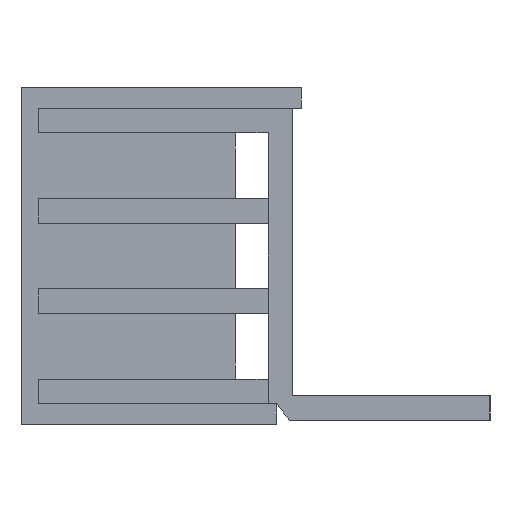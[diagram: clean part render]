
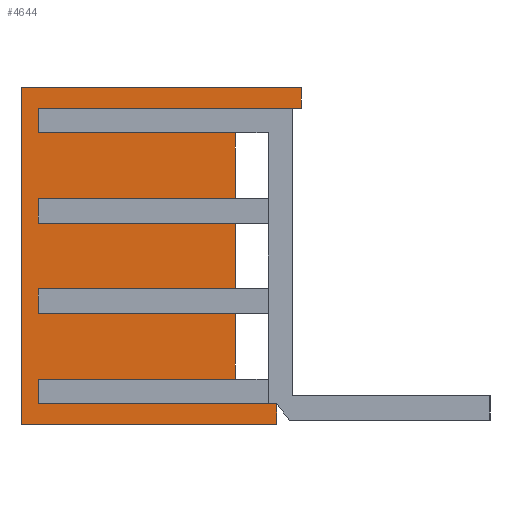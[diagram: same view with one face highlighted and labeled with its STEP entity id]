
A CAD part, left-side view. The second image highlights one B-rep face of the part: STEP entity #4644.
In plain terms, the highlighted planar face has unit normal (-1, 0, 0).
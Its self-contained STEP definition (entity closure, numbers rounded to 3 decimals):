
#1=DIRECTION('',(0.,-1.,0.));
#2=VECTOR('',#1,15.5);
#3=CARTESIAN_POINT('',(0.,15.5,0.));
#4=LINE('',#3,#2);
#5=DIRECTION('',(0.,0.,-1.));
#6=VECTOR('',#5,20.5);
#7=CARTESIAN_POINT('',(0.,15.5,20.5));
#8=LINE('',#7,#6);
#9=DIRECTION('',(0.,1.,0.));
#10=VECTOR('',#9,17.);
#11=CARTESIAN_POINT('',(0.,-1.5,20.5));
#12=LINE('',#11,#10);
#13=DIRECTION('',(0.,0.,1.));
#14=VECTOR('',#13,1.25);
#15=CARTESIAN_POINT('',(0.,-1.5,19.25));
#16=LINE('',#15,#14);
#17=DIRECTION('',(0.,-1.,0.));
#18=VECTOR('',#17,16.);
#19=CARTESIAN_POINT('',(0.,14.5,19.25));
#20=LINE('',#19,#18);
#21=DIRECTION('',(0.,0.,1.));
#22=VECTOR('',#21,1.5);
#23=CARTESIAN_POINT('',(0.,14.5,17.75));
#24=LINE('',#23,#22);
#25=DIRECTION('',(0.,1.,0.));
#26=VECTOR('',#25,12.);
#27=CARTESIAN_POINT('',(0.,2.5,17.75));
#28=LINE('',#27,#26);
#29=DIRECTION('',(0.,0.,1.));
#30=VECTOR('',#29,4.);
#31=CARTESIAN_POINT('',(0.,2.5,13.75));
#32=LINE('',#31,#30);
#33=DIRECTION('',(0.,-1.,0.));
#34=VECTOR('',#33,12.);
#35=CARTESIAN_POINT('',(0.,14.5,13.75));
#36=LINE('',#35,#34);
#37=DIRECTION('',(0.,0.,1.));
#38=VECTOR('',#37,1.5);
#39=CARTESIAN_POINT('',(0.,14.5,12.25));
#40=LINE('',#39,#38);
#41=DIRECTION('',(0.,1.,0.));
#42=VECTOR('',#41,12.);
#43=CARTESIAN_POINT('',(0.,2.5,12.25));
#44=LINE('',#43,#42);
#45=DIRECTION('',(0.,0.,1.));
#46=VECTOR('',#45,4.);
#47=CARTESIAN_POINT('',(0.,2.5,8.25));
#48=LINE('',#47,#46);
#49=DIRECTION('',(0.,-1.,0.));
#50=VECTOR('',#49,12.);
#51=CARTESIAN_POINT('',(0.,14.5,8.25));
#52=LINE('',#51,#50);
#53=DIRECTION('',(0.,0.,1.));
#54=VECTOR('',#53,1.5);
#55=CARTESIAN_POINT('',(0.,14.5,6.75));
#56=LINE('',#55,#54);
#57=DIRECTION('',(0.,1.,0.));
#58=VECTOR('',#57,12.);
#59=CARTESIAN_POINT('',(0.,2.5,6.75));
#60=LINE('',#59,#58);
#61=DIRECTION('',(0.,0.,1.));
#62=VECTOR('',#61,4.);
#63=CARTESIAN_POINT('',(0.,2.5,2.75));
#64=LINE('',#63,#62);
#65=DIRECTION('',(0.,-1.,0.));
#66=VECTOR('',#65,12.);
#67=CARTESIAN_POINT('',(0.,14.5,2.75));
#68=LINE('',#67,#66);
#69=DIRECTION('',(0.,0.,1.));
#70=VECTOR('',#69,1.5);
#71=CARTESIAN_POINT('',(0.,14.5,1.25));
#72=LINE('',#71,#70);
#73=DIRECTION('',(0.,1.,0.));
#74=VECTOR('',#73,14.5);
#75=CARTESIAN_POINT('',(0.,0.,1.25));
#76=LINE('',#75,#74);
#77=DIRECTION('',(0.,0.,1.));
#78=VECTOR('',#77,1.25);
#79=CARTESIAN_POINT('',(0.,0.,0.));
#80=LINE('',#79,#78);
#3505=CARTESIAN_POINT('',(0.,15.5,0.));
#3506=CARTESIAN_POINT('',(0.,0.,0.));
#3507=VERTEX_POINT('',#3505);
#3508=VERTEX_POINT('',#3506);
#3509=CARTESIAN_POINT('',(0.,0.,1.25));
#3510=VERTEX_POINT('',#3509);
#3511=CARTESIAN_POINT('',(0.,14.5,1.25));
#3512=VERTEX_POINT('',#3511);
#3513=CARTESIAN_POINT('',(0.,14.5,2.75));
#3514=VERTEX_POINT('',#3513);
#3515=CARTESIAN_POINT('',(0.,14.5,19.25));
#3516=CARTESIAN_POINT('',(0.,-1.5,19.25));
#3517=VERTEX_POINT('',#3515);
#3518=VERTEX_POINT('',#3516);
#3519=CARTESIAN_POINT('',(0.,-1.5,20.5));
#3520=VERTEX_POINT('',#3519);
#3521=CARTESIAN_POINT('',(0.,15.5,20.5));
#3522=VERTEX_POINT('',#3521);
#3541=CARTESIAN_POINT('',(0.,2.5,2.75));
#3542=VERTEX_POINT('',#3541);
#3543=CARTESIAN_POINT('',(0.,2.5,6.75));
#3544=VERTEX_POINT('',#3543);
#3545=CARTESIAN_POINT('',(0.,14.5,6.75));
#3546=VERTEX_POINT('',#3545);
#3547=CARTESIAN_POINT('',(0.,14.5,8.25));
#3548=VERTEX_POINT('',#3547);
#3549=CARTESIAN_POINT('',(0.,2.5,8.25));
#3550=VERTEX_POINT('',#3549);
#3551=CARTESIAN_POINT('',(0.,2.5,12.25));
#3552=VERTEX_POINT('',#3551);
#3553=CARTESIAN_POINT('',(0.,14.5,12.25));
#3554=VERTEX_POINT('',#3553);
#3555=CARTESIAN_POINT('',(0.,14.5,13.75));
#3556=VERTEX_POINT('',#3555);
#3557=CARTESIAN_POINT('',(0.,2.5,13.75));
#3558=VERTEX_POINT('',#3557);
#3559=CARTESIAN_POINT('',(0.,2.5,17.75));
#3560=VERTEX_POINT('',#3559);
#3561=CARTESIAN_POINT('',(0.,14.5,17.75));
#3562=VERTEX_POINT('',#3561);
#4597=CARTESIAN_POINT('',(0.,-13.,0.));
#4598=DIRECTION('',(-1.,0.,0.));
#4599=DIRECTION('',(0.,0.,1.));
#4600=AXIS2_PLACEMENT_3D('',#4597,#4598,#4599);
#4601=PLANE('',#4600);
#4603=ORIENTED_EDGE('',*,*,#4602,.F.);
#4605=ORIENTED_EDGE('',*,*,#4604,.F.);
#4607=ORIENTED_EDGE('',*,*,#4606,.F.);
#4609=ORIENTED_EDGE('',*,*,#4608,.F.);
#4611=ORIENTED_EDGE('',*,*,#4610,.F.);
#4613=ORIENTED_EDGE('',*,*,#4612,.F.);
#4615=ORIENTED_EDGE('',*,*,#4614,.F.);
#4617=ORIENTED_EDGE('',*,*,#4616,.F.);
#4619=ORIENTED_EDGE('',*,*,#4618,.F.);
#4621=ORIENTED_EDGE('',*,*,#4620,.F.);
#4623=ORIENTED_EDGE('',*,*,#4622,.F.);
#4625=ORIENTED_EDGE('',*,*,#4624,.F.);
#4627=ORIENTED_EDGE('',*,*,#4626,.F.);
#4629=ORIENTED_EDGE('',*,*,#4628,.F.);
#4631=ORIENTED_EDGE('',*,*,#4630,.F.);
#4633=ORIENTED_EDGE('',*,*,#4632,.F.);
#4635=ORIENTED_EDGE('',*,*,#4634,.F.);
#4637=ORIENTED_EDGE('',*,*,#4636,.F.);
#4639=ORIENTED_EDGE('',*,*,#4638,.F.);
#4641=ORIENTED_EDGE('',*,*,#4640,.F.);
#4642=EDGE_LOOP('',(#4603,#4605,#4607,#4609,#4611,#4613,#4615,#4617,#4619,#4621,
#4623,#4625,#4627,#4629,#4631,#4633,#4635,#4637,#4639,#4641));
#4643=FACE_OUTER_BOUND('',#4642,.F.);
#4602=EDGE_CURVE('',#3507,#3508,#4,.T.);
#4604=EDGE_CURVE('',#3522,#3507,#8,.T.);
#4606=EDGE_CURVE('',#3520,#3522,#12,.T.);
#4608=EDGE_CURVE('',#3518,#3520,#16,.T.);
#4610=EDGE_CURVE('',#3517,#3518,#20,.T.);
#4612=EDGE_CURVE('',#3562,#3517,#24,.T.);
#4614=EDGE_CURVE('',#3560,#3562,#28,.T.);
#4616=EDGE_CURVE('',#3558,#3560,#32,.T.);
#4618=EDGE_CURVE('',#3556,#3558,#36,.T.);
#4620=EDGE_CURVE('',#3554,#3556,#40,.T.);
#4622=EDGE_CURVE('',#3552,#3554,#44,.T.);
#4624=EDGE_CURVE('',#3550,#3552,#48,.T.);
#4626=EDGE_CURVE('',#3548,#3550,#52,.T.);
#4628=EDGE_CURVE('',#3546,#3548,#56,.T.);
#4630=EDGE_CURVE('',#3544,#3546,#60,.T.);
#4632=EDGE_CURVE('',#3542,#3544,#64,.T.);
#4634=EDGE_CURVE('',#3514,#3542,#68,.T.);
#4636=EDGE_CURVE('',#3512,#3514,#72,.T.);
#4638=EDGE_CURVE('',#3510,#3512,#76,.T.);
#4640=EDGE_CURVE('',#3508,#3510,#80,.T.);
#4644=ADVANCED_FACE('',(#4643),#4601,.T.);
